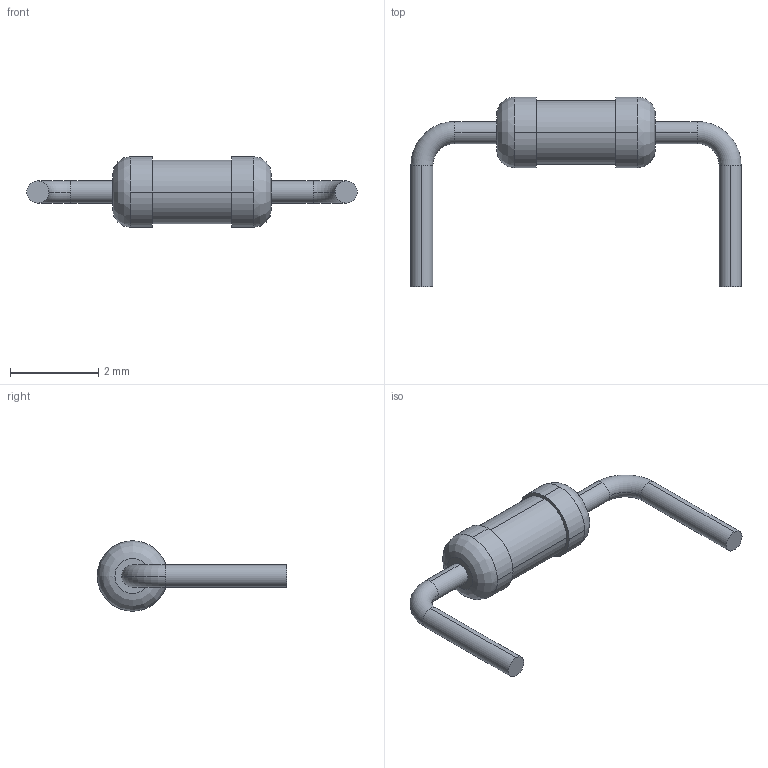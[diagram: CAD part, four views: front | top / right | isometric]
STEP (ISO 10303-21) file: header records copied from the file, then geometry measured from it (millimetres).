
FILE_DESCRIPTION((''),'2;1');
FILE_NAME('\\tsclient\C\Users\davide\Documents\DownLoad Arduino\Models\Resistor\R_Axial_DIN0204_L36mm_D16mm_P7.stp','2019-03-12T16:49:37',('XPMUser'),(''),'Autodesk Inventor (tm) 5.3','Autodesk Inventor (tm) 5.3','');
FILE_SCHEMA(('AUTOMOTIVE_DESIGN { 1 2 10303 214 0 1 1 1 }'));
Length unit declared in the file: millimetre
Products named in the file (3): R_Axial_DIN0204_L36mm_D16mm_P7.00mm_Horizontal; R_Axial_DIN0204_L36mm_D16mm_BODY_Horizontal; P7.0mm_Horizontal_Pin
Assembly tree (3 placements, depth 2):
  R_Axial_DIN0204_L36mm_D16mm_P7.00mm_Horizontal
    R_Axial_DIN0204_L36mm_D16mm_BODY_Horizontal
    P7.0mm_Horizontal_Pin  x2
Bounding box: 7.5 x 4.3 x 1.6 mm (x, y, z)
Volume: 8.2 mm3; surface area: 36.2 mm2
Topology: 3 solids, 3 shells, 34 faces, 76 edges, 50 vertices
Faces by surface type: cylinder 20, plane 8, torus 4, bspline 2
Entity records: 991 total; most frequent: CARTESIAN_POINT 288, DIRECTION 160, ORIENTED_EDGE 116, AXIS2_PLACEMENT_3D 72, EDGE_CURVE 58, CIRCLE 42, VERTEX_POINT 38, EDGE_LOOP 28
